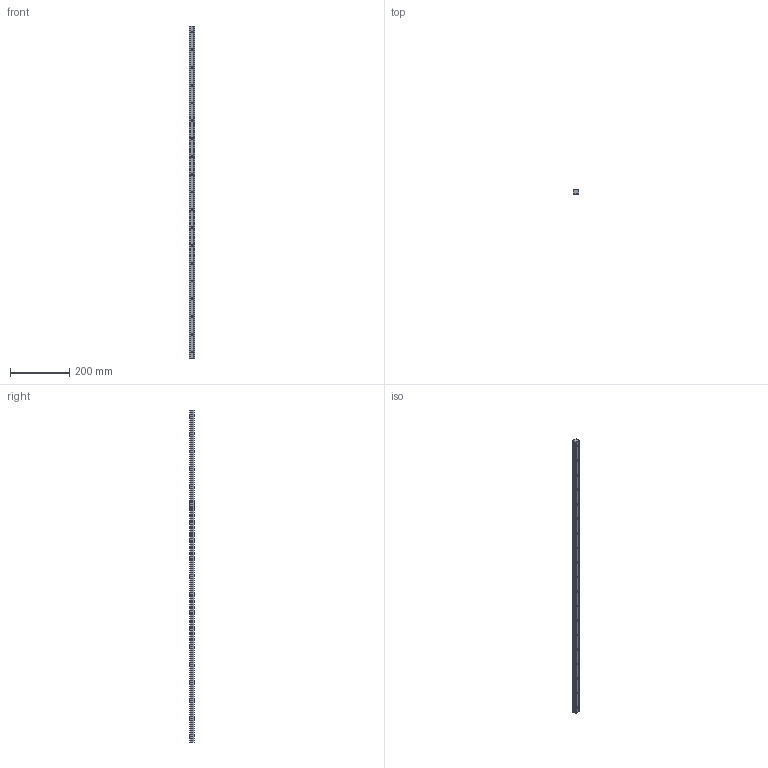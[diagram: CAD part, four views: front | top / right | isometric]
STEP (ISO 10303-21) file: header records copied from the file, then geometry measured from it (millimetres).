
FILE_DESCRIPTION (( 'STEP AP203' ), '1' );
FILE_NAME ('L1016.BL20-1120.step', '2019-06-12T11:48:23', ( '' ), ( '' ), 'SwSTEP 2.0', 'SolidWorks 2017', '' );
FILE_SCHEMA (( 'CONFIG_CONTROL_DESIGN' ));
Length unit declared in the file: millimetre
Products named in the file (1): L1016.BL20-1120
Bounding box: 20 x 16.3 x 1120 mm (x, y, z)
Volume: 311164.8 mm3; surface area: 90516.2 mm2
Topology: 1 solids, 1 shells, 121 faces, 300 edges, 200 vertices
Faces by surface type: cylinder 80, plane 41
Entity records: 3827 total; most frequent: DIRECTION 704, CARTESIAN_POINT 622, ORIENTED_EDGE 600, EDGE_CURVE 300, AXIS2_PLACEMENT_3D 282, VERTEX_POINT 200, EDGE_LOOP 178, CIRCLE 160
